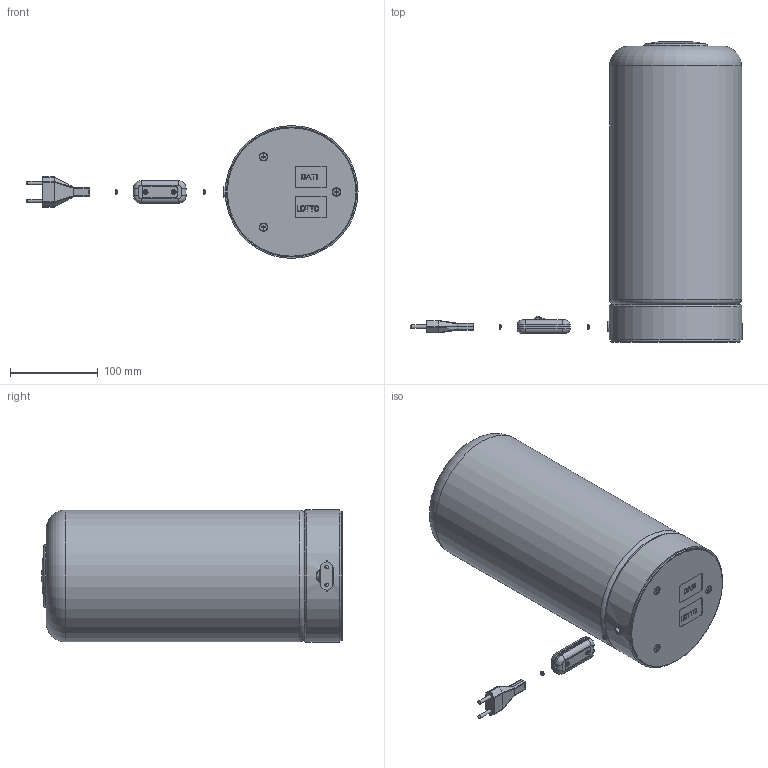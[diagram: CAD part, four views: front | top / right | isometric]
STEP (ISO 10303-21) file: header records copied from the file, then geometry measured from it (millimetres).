
FILE_DESCRIPTION(/* description */ ('STACKING T 30x15 CE'),/* implementation_level */ '2;1');
FILE_NAME(/* name */ '343T0LD0-0CEDP - STACKING T 30 EMEA.stp',/* time_stamp */ '2026-01-28T11:37:03+01:00',/* author */ ('marco.prandina'),/* organization */ (''),/* preprocessor_version */ 'ST-DEVELOPER v20.1',/* originating_system */ 'Autodesk Inventor 2026',/* authorisation */ '');
FILE_SCHEMA (('AUTOMOTIVE_DESIGN { 1 0 10303 214 3 1 1 }'));
Length unit declared in the file: millimetre
Products named in the file (42): 343T0LD0-0CEDP; 00343C501; 00343C406-A; C010; K001; W029; W031; 00343C397; 00343C404; 00343C398; 00343C407-A; 00343C410; 343C670; 343C101; 343C101_1; X0065-030; X0064-006; 343C050; 343C100; 343C150; B006; W024; K002; VITE TSP M4X6 ZN; VITE TCB M3X8 UNI7687 ZB; VITE TCB M4X8 UNI7687 BRUNITA; VITE AUTOFIL. TB TORX ISO 14585-ST4,2-38-C; VITE TCB M3X10 UNI7687 ZB; VITE TSPIC M4X10 UNI7688; B001-NRO; B002-TRS; X0001; RONDELLA DENTELLATA ESTERNA M3 UNI8842A; VITE TCC BOMBATA M3X6 UNI7687; D004; S007; S002; W001; W002; A003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
Assembly tree (79 placements, depth 3):
  343T0LD0-0CEDP
    00343C501
      00343C406-A
      C010  x25
      K001
      W029
      W031
    00343C397
    00343C404
    00343C398
    00343C407-A
    00343C410
    343C670
    343C101
      343C101_1
      X0065-030  x3
      X0064-006  x2
    343C050
    343C100
    343C150
    B006
    W024
    K002
    VITE TSP M4X6 ZN
    VITE TCB M3X8 UNI7687 ZB  x2
    VITE TCB M4X8 UNI7687 BRUNITA
    VITE AUTOFIL. TB TORX ISO 14585-ST4,2-38-C  x2
    VITE TCB M3X10 UNI7687 ZB  x3
    VITE TSPIC M4X10 UNI7688  x3
    RONDELLA DENTELLATA ESTERNA M3 UNI8842A  x5
    B001-NRO
    B002-TRS
    X0001
    VITE TCC BOMBATA M3X6 UNI7687  x2
    D004
      S007
      S002
      W001
      W002
    A003
    Z016-A
    Z016-B
Bounding box: 377.5 x 342.01 x 151 mm (x, y, z)
Volume: 1131086.7 mm3; surface area: 747768.8 mm2
Topology: 81 solids, 82 shells, 6315 faces, 16414 edges, 10586 vertices
Faces by surface type: plane 3584, cylinder 1537, bspline 729, cone 273, torus 104, sphere 88
Full cylindrical faces by diameter (mm): 1 x5, 1.8 x5, 1.9 x1, 2 x7, 2.459 x7, 2.75 x7, 3 x9, 3.2 x6, 3.242 x5, 3.5 x5, 3.571 x4, 3.65 x1, 4 x7, 4.2 x6, 4.5 x5, 5 x4, 5.3 x3, 5.5 x3, 5.6 x1, 5.917 x1, 6 x3, 6.17 x1, 6.5 x2, 6.8 x1, 7 x5, 7.5 x3, 8.4 x4, 9 x3, 9.5 x3, 10 x1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
Entity records: 175784 total; most frequent: CARTESIAN_POINT 66934, ORIENTED_EDGE 23064, DIRECTION 20941, EDGE_CURVE 11532, VERTEX_POINT 7377, AXIS2_PLACEMENT_3D 7144, LINE 6653, VECTOR 6653
